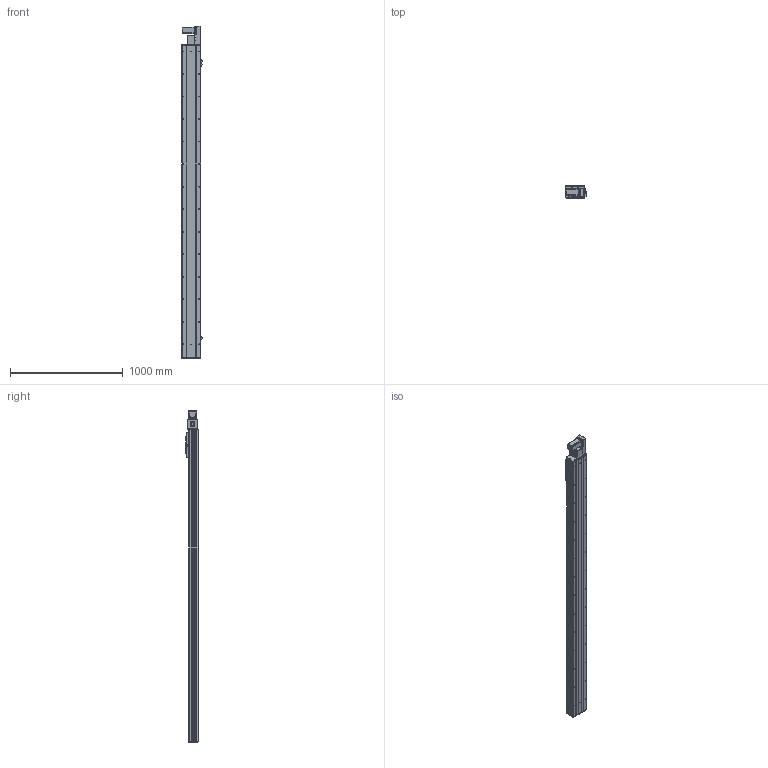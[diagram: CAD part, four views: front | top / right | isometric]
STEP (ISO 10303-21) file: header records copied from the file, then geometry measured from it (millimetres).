
FILE_DESCRIPTION (( 'STEP AP203' ), '1' );
FILE_NAME ('Y170CB-D105-S2450-BR-P400W.STEP', '2020-02-19T09:49:07', ( '微软用户' ), ( '微软中国' ), 'SwSTEP 2.0', 'SolidWorks 2017', '' );
FILE_SCHEMA (( 'CONFIG_CONTROL_DESIGN' ));
Length unit declared in the file: millimetre
Products named in the file (17): 70B喘謫眊----; B-源倛裔啣; 17B-耜蚾蟀諉啣----; 0B-萇儂楊擘啣; san松下电机400不带刹车----; Y70俋欶BR----; 70CB-掛极-; --70CB --喘謫眊楊擘啣-; 70CB-耜裔啣-; 70C--詩湍揤踡え-; 70CB--耜裔; 70C-雄赽釱-奻-; 0C--雄赽釱俋欶-170; 70CB-詩湍--; Y100-135俋离換覜ん--; Y170CB-陔俋离換覜結え---; Y170CB-D105-S2450-BR-P400W
Assembly tree (20 placements, depth 2):
  Y170CB-D105-S2450-BR-P400W
    70B喘謫眊----
    B-源倛裔啣
    17B-耜蚾蟀諉啣----
    0B-萇儂楊擘啣
    san松下电机400不带刹车----
    Y70俋欶BR----
    70CB-掛极-
    --70CB --喘謫眊楊擘啣-
    70CB-耜裔啣-  x2
    70C--詩湍揤踡え-  x2
    70CB--耜裔
    70C-雄赽釱-奻-
    0C--雄赽釱俋欶-170
    70CB-詩湍--
    Y100-135俋离換覜ん--  x3
    Y170CB-陔俋离換覜結え---
Bounding box: 183.5 x 107 x 2947 mm (x, y, z)
Volume: 12241862.7 mm3; surface area: 4412325.6 mm2
Topology: 20 solids, 20 shells, 1049 faces, 2825 edges, 1874 vertices
Faces by surface type: cylinder 563, plane 462, cone 24
Entity records: 33503 total; most frequent: CARTESIAN_POINT 6201, DIRECTION 5452, ORIENTED_EDGE 5132, EDGE_CURVE 2566, AXIS2_PLACEMENT_3D 2005, VERTEX_POINT 1704, LINE 1442, VECTOR 1442
